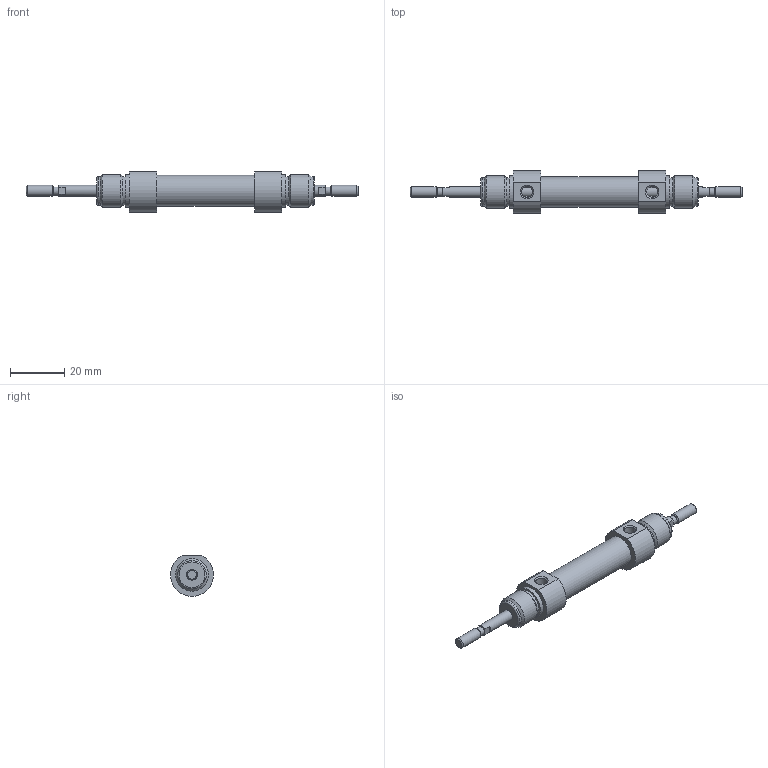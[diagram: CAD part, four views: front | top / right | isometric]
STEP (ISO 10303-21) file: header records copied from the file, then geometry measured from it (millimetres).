
FILE_DESCRIPTION( ( 'STEP AP203' ), '1' );
FILE_NAME( '//expscmdclustefs.cadenas.external/client_exchange/iodir/jobs/output/wkb68270961_no0/STEP/M101-010-0010--__0__2_03.stp', ' ', ( ' ' ), ( ' ' ), 'PSStep 15.0.47', 'PARTsolutions', ' ' );
FILE_SCHEMA( ( 'CONFIG_CONTROL_DESIGN' ) );
Length unit declared in the file: millimetre
Products named in the file (3): M101-010-0010-- [0]; HI_M101-010-0010---[0]-z; HI_M101-010-0010---[0]-k
Assembly tree (2 placements, depth 2):
  M101-010-0010-- [0]
    HI_M101-010-0010---[0]-z
    HI_M101-010-0010---[0]-k
Bounding box: 122 x 15.77 x 14.87 mm (x, y, z)
Volume: 9677.5 mm3; surface area: 6956.7 mm2
Topology: 2 solids, 2 shells, 71 faces, 145 edges, 88 vertices
Faces by surface type: plane 32, cylinder 23, cone 14, torus 2
Full cylindrical faces by diameter (mm): 3.141 x2, 4 x6, 4.134 x2, 10 x2, 10.466 x4, 11.3 x1, 12 x4
Entity records: 1838 total; most frequent: CARTESIAN_POINT 358, DIRECTION 312, ORIENTED_EDGE 212, AXIS2_PLACEMENT_3D 140, EDGE_LOOP 120, EDGE_CURVE 106, FACE_OUTER_BOUND 94, VERTEX_POINT 82
